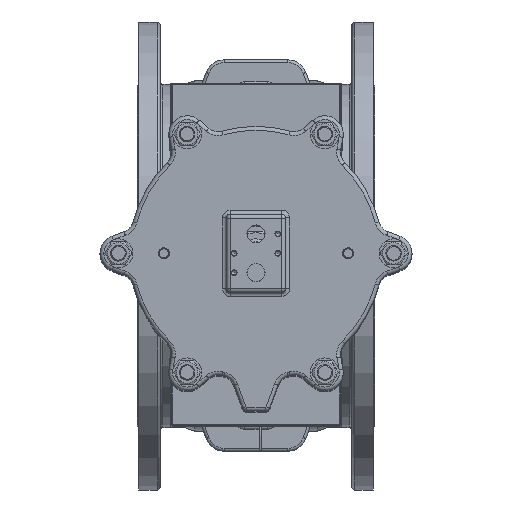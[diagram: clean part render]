
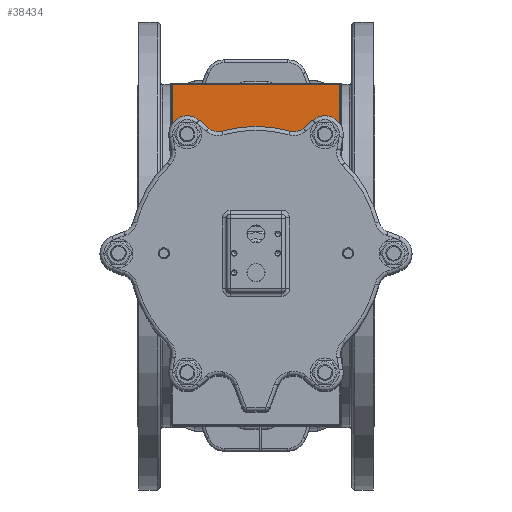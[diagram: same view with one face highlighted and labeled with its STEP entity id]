
A CAD part, top view. The second image highlights one B-rep face of the part: STEP entity #38434.
In plain terms, the highlighted planar face has unit normal (0, 0, 1).
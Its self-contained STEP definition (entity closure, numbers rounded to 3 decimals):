
#1994=PLANE('',#41836);
#3523=FACE_OUTER_BOUND('',#6026,.T.);
#6026=EDGE_LOOP('',(#29065,#29066,#29067,#29068,#29069,#29070,#29071,#29072,
#29073,#29074,#29075,#29076,#29077,#29078));
#8900=LINE('',#62963,#11127);
#8916=LINE('',#62999,#11143);
#8918=LINE('',#63004,#11145);
#8921=LINE('',#63009,#11148);
#8922=LINE('',#63012,#11149);
#8925=LINE('',#63017,#11152);
#8938=LINE('',#63055,#11165);
#8940=LINE('',#63059,#11167);
#8942=LINE('',#63063,#11169);
#8944=LINE('',#63067,#11171);
#8945=LINE('',#63070,#11172);
#8959=LINE('',#63109,#11186);
#8965=LINE('',#63125,#11192);
#11127=VECTOR('',#49821,10.);
#11143=VECTOR('',#49851,10.);
#11145=VECTOR('',#49855,10.);
#11148=VECTOR('',#49860,10.);
#11149=VECTOR('',#49863,10.);
#11152=VECTOR('',#49868,10.);
#11165=VECTOR('',#49911,10.);
#11167=VECTOR('',#49915,1.44);
#11169=VECTOR('',#49919,1.44);
#11171=VECTOR('',#49923,10.);
#11172=VECTOR('',#49926,10.);
#11186=VECTOR('',#49970,10.);
#11192=VECTOR('',#49990,10.);
#13264=CIRCLE('',#41837,11.5);
#16738=VERTEX_POINT('',#62960);
#16739=VERTEX_POINT('',#62962);
#16741=VERTEX_POINT('',#62968);
#16742=VERTEX_POINT('',#62972);
#16753=VERTEX_POINT('',#63001);
#16754=VERTEX_POINT('',#63003);
#16755=VERTEX_POINT('',#63007);
#16756=VERTEX_POINT('',#63011);
#16757=VERTEX_POINT('',#63015);
#16768=VERTEX_POINT('',#63057);
#16769=VERTEX_POINT('',#63061);
#16770=VERTEX_POINT('',#63065);
#16771=VERTEX_POINT('',#63069);
#16784=VERTEX_POINT('',#63123);
#21187=EDGE_CURVE('',#16738,#16739,#8900,.T.);
#21206=EDGE_CURVE('',#16742,#16741,#8916,.T.);
#21208=EDGE_CURVE('',#16753,#16754,#8918,.T.);
#21211=EDGE_CURVE('',#16742,#16755,#8921,.T.);
#21212=EDGE_CURVE('',#16756,#16755,#8922,.T.);
#21215=EDGE_CURVE('',#16753,#16757,#8925,.T.);
#21234=EDGE_CURVE('',#16757,#16756,#8938,.T.);
#21236=EDGE_CURVE('',#16739,#16768,#8940,.T.);
#21238=EDGE_CURVE('',#16769,#16741,#8942,.T.);
#21240=EDGE_CURVE('',#16770,#16769,#8944,.T.);
#21241=EDGE_CURVE('',#16768,#16771,#8945,.T.);
#21261=EDGE_CURVE('',#16771,#16770,#8959,.T.);
#21269=EDGE_CURVE('',#16754,#16784,#8965,.T.);
#21270=EDGE_CURVE('',#16738,#16784,#13264,.T.);
#29065=ORIENTED_EDGE('',*,*,#21270,.T.);
#29066=ORIENTED_EDGE('',*,*,#21269,.F.);
#29067=ORIENTED_EDGE('',*,*,#21208,.F.);
#29068=ORIENTED_EDGE('',*,*,#21215,.T.);
#29069=ORIENTED_EDGE('',*,*,#21234,.T.);
#29070=ORIENTED_EDGE('',*,*,#21212,.T.);
#29071=ORIENTED_EDGE('',*,*,#21211,.F.);
#29072=ORIENTED_EDGE('',*,*,#21206,.T.);
#29073=ORIENTED_EDGE('',*,*,#21238,.F.);
#29074=ORIENTED_EDGE('',*,*,#21240,.F.);
#29075=ORIENTED_EDGE('',*,*,#21261,.F.);
#29076=ORIENTED_EDGE('',*,*,#21241,.F.);
#29077=ORIENTED_EDGE('',*,*,#21236,.F.);
#29078=ORIENTED_EDGE('',*,*,#21187,.F.);
#38434=ADVANCED_FACE('',(#3523),#1994,.T.);
#41836=AXIS2_PLACEMENT_3D('',#63126,#49991,#49992);
#41837=AXIS2_PLACEMENT_3D('',#63127,#49993,#49994);
#49821=DIRECTION('',(-1.,0.,0.));
#49851=DIRECTION('',(-1.,0.,0.));
#49855=DIRECTION('',(0.,-1.,0.));
#49860=DIRECTION('',(0.,-1.,0.));
#49863=DIRECTION('',(-1.,0.,0.));
#49868=DIRECTION('',(1.,0.,0.));
#49911=DIRECTION('',(0.,1.,0.));
#49915=DIRECTION('',(0.,1.,0.));
#49919=DIRECTION('',(0.,1.,0.));
#49923=DIRECTION('',(1.,0.,0.));
#49926=DIRECTION('',(-1.,0.,0.));
#49970=DIRECTION('',(0.,1.,0.));
#49990=DIRECTION('',(-1.,0.,0.));
#49991=DIRECTION('center_axis',(0.,0.,
1.));
#49992=DIRECTION('ref_axis',(-1.,0.,0.));
#49993=DIRECTION('center_axis',(0.,0.,
-1.));
#49994=DIRECTION('ref_axis',(0.,-1.,0.));
#62960=CARTESIAN_POINT('',(-10.782,82.001,861.));
#62962=CARTESIAN_POINT('',(-86.5,82.001,861.));
#62963=CARTESIAN_POINT('',(86.5,82.001,861.));
#62968=CARTESIAN_POINT('',(-86.5,175.001,861.));
#62972=CARTESIAN_POINT('',(86.5,175.001,861.));
#62999=CARTESIAN_POINT('',(0.,175.001,861.));
#63001=CARTESIAN_POINT('',(86.5,107.001,861.));
#63003=CARTESIAN_POINT('',(86.5,82.001,861.));
#63004=CARTESIAN_POINT('',(86.5,175.001,861.));
#63007=CARTESIAN_POINT('',(86.5,117.001,861.));
#63009=CARTESIAN_POINT('',(86.5,175.001,861.));
#63011=CARTESIAN_POINT('',(87.7,117.001,861.));
#63012=CARTESIAN_POINT('',(87.7,117.001,861.));
#63015=CARTESIAN_POINT('',(87.7,107.001,861.));
#63017=CARTESIAN_POINT('',(86.5,107.001,861.));
#63055=CARTESIAN_POINT('',(87.7,107.001,861.));
#63057=CARTESIAN_POINT('',(-86.5,107.001,861.));
#63059=CARTESIAN_POINT('',(-86.5,179.525,861.));
#63061=CARTESIAN_POINT('',(-86.5,117.001,861.));
#63063=CARTESIAN_POINT('',(-86.5,179.525,861.));
#63065=CARTESIAN_POINT('',(-87.7,117.001,861.));
#63067=CARTESIAN_POINT('',(-87.7,117.001,861.));
#63069=CARTESIAN_POINT('',(-87.7,107.001,861.));
#63070=CARTESIAN_POINT('',(-86.5,107.001,861.));
#63109=CARTESIAN_POINT('',(-87.7,107.001,861.));
#63123=CARTESIAN_POINT('',(10.782,82.001,861.));
#63125=CARTESIAN_POINT('',(86.5,82.001,861.));
#63126=CARTESIAN_POINT('Origin',(0.,129.632,
861.));
#63127=CARTESIAN_POINT('Origin',(0.,78.001,
861.));
